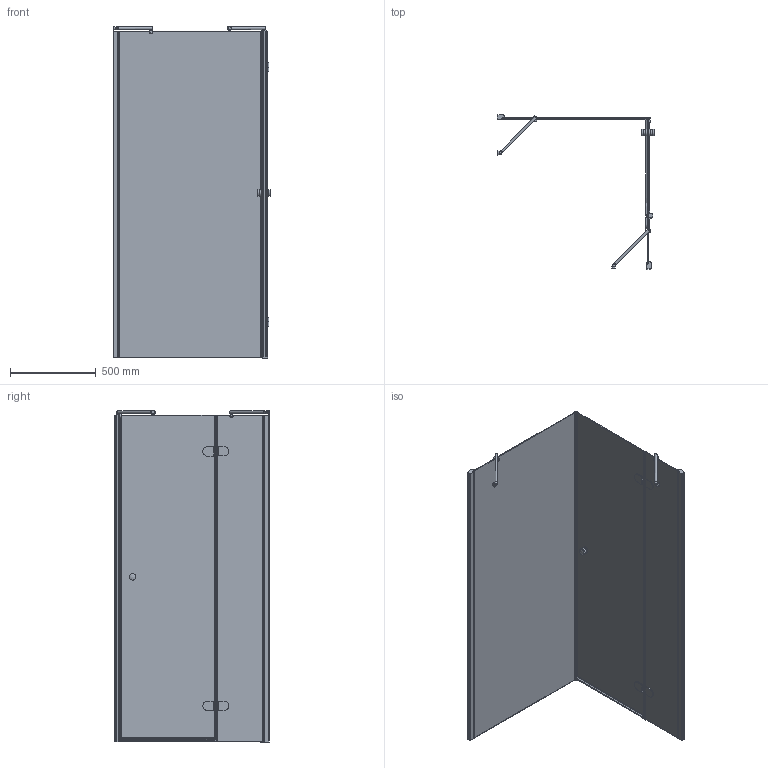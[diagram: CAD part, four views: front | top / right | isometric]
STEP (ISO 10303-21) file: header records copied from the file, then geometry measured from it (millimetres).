
FILE_DESCRIPTION(/* description */ (''),/* implementation_level */ '2;1');
FILE_NAME(/* name */ 'E:\Работа\Сергей\Душевые кабинки\! Работа\777\LUX SQUARE GK-103\LUX SQUARE GK-103 левая модель\LUX SQUARE GK-103 ЛЕВАЯ-3D.stp',/* time_stamp */ '2018-04-21T10:55:38+03:00',/* author */ ('PC'),/* organization */ (''),/* preprocessor_version */ 'ST-DEVELOPER v15.2',/* originating_system */ 'Autodesk Inventor 2014',/* authorisation */ '');
FILE_SCHEMA (('AUTOMOTIVE_DESIGN { 1 0 10303 214 3 1 1 }'));
Length unit declared in the file: millimetre
Products named in the file (1): LUX SQUARE GK-103 ЛЕВАЯ-3D
Bounding box: 917.84 x 898.62 x 1931.5 mm (x, y, z)
Volume: 23696135.7 mm3; surface area: 7227466.5 mm2
Topology: 5 solids, 5 shells, 647 faces, 1632 edges, 1009 vertices
Faces by surface type: plane 446, cylinder 172, torus 15, sphere 8, bspline 6
Full cylindrical faces by diameter (mm): 12 x2, 15 x2, 20 x4, 26 x2, 38 x4
Entity records: 20101 total; most frequent: CARTESIAN_POINT 4004, DIRECTION 3199, ORIENTED_EDGE 3176, EDGE_CURVE 1588, LINE 1141, VECTOR 1141, AXIS2_PLACEMENT_3D 1029, VERTEX_POINT 989
